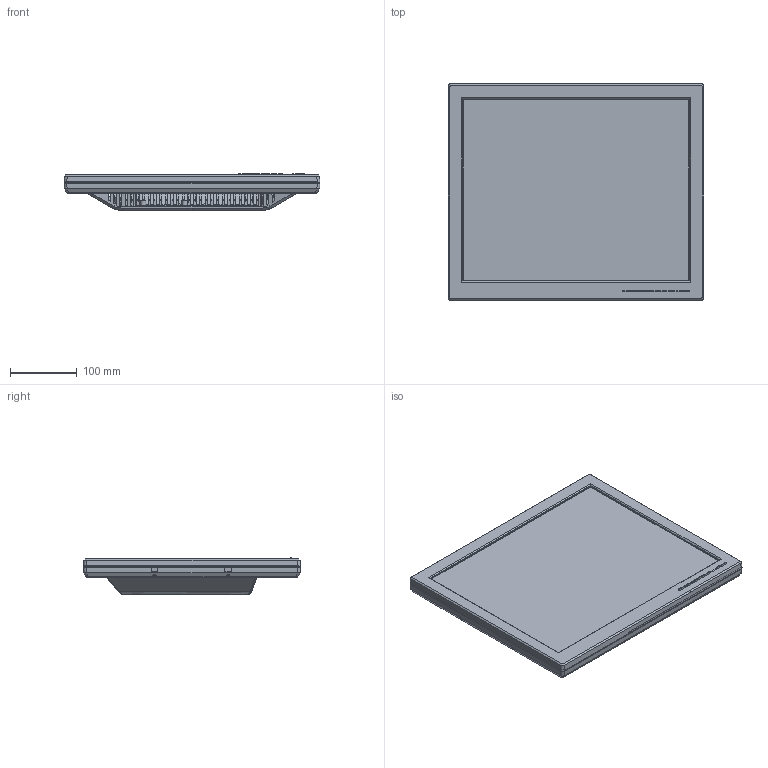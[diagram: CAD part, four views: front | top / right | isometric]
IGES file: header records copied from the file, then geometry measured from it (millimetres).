
Global section: file name: FIE170DM; native system: AutoCAD 2019 – 繁體中文 (Traditional Chinese),62HAutode; preprocessor: sk Translation Framework DWG producer (atf_dwg_producer); organization: unknown; date: 20210615.110213; units: millimetre
Bounding box: 382.73 x 324.56 x 55.32 mm (x, y, z)
Volume: 1888027.6 mm3; surface area: 661521.6 mm2
Topology: 5 solids, 6 shells, 1781 faces, 5297 edges, 3498 vertices
Faces by surface type: bspline 1781
